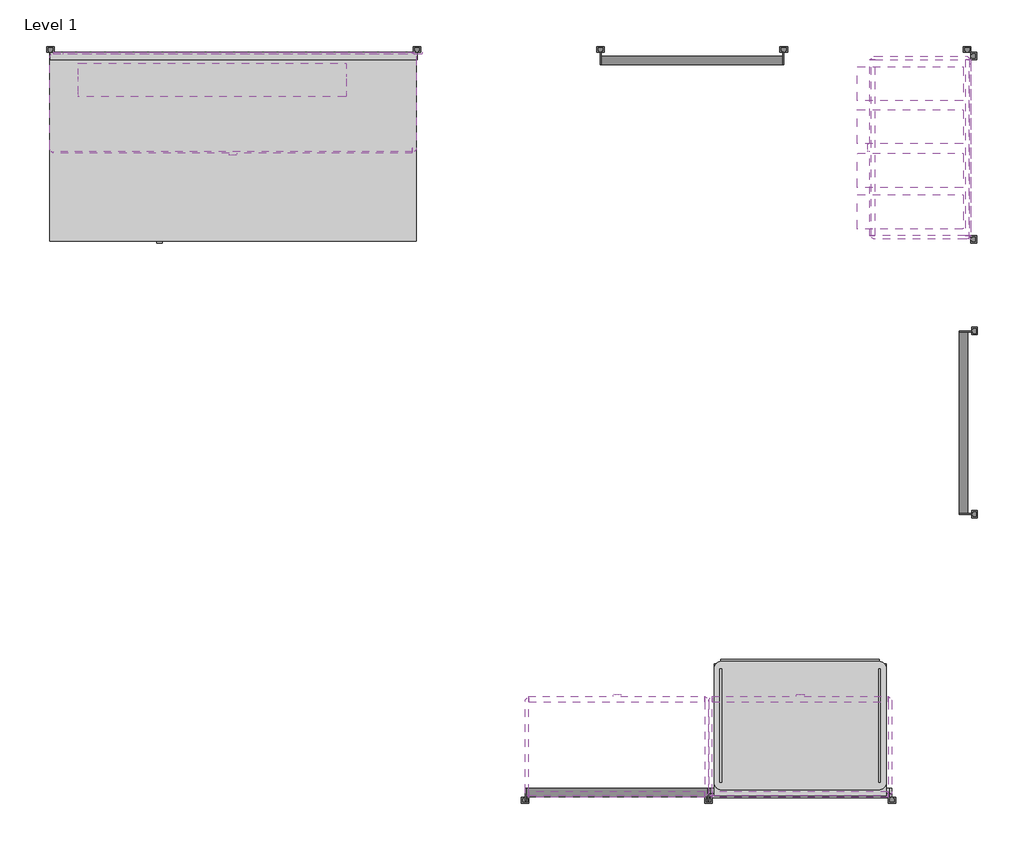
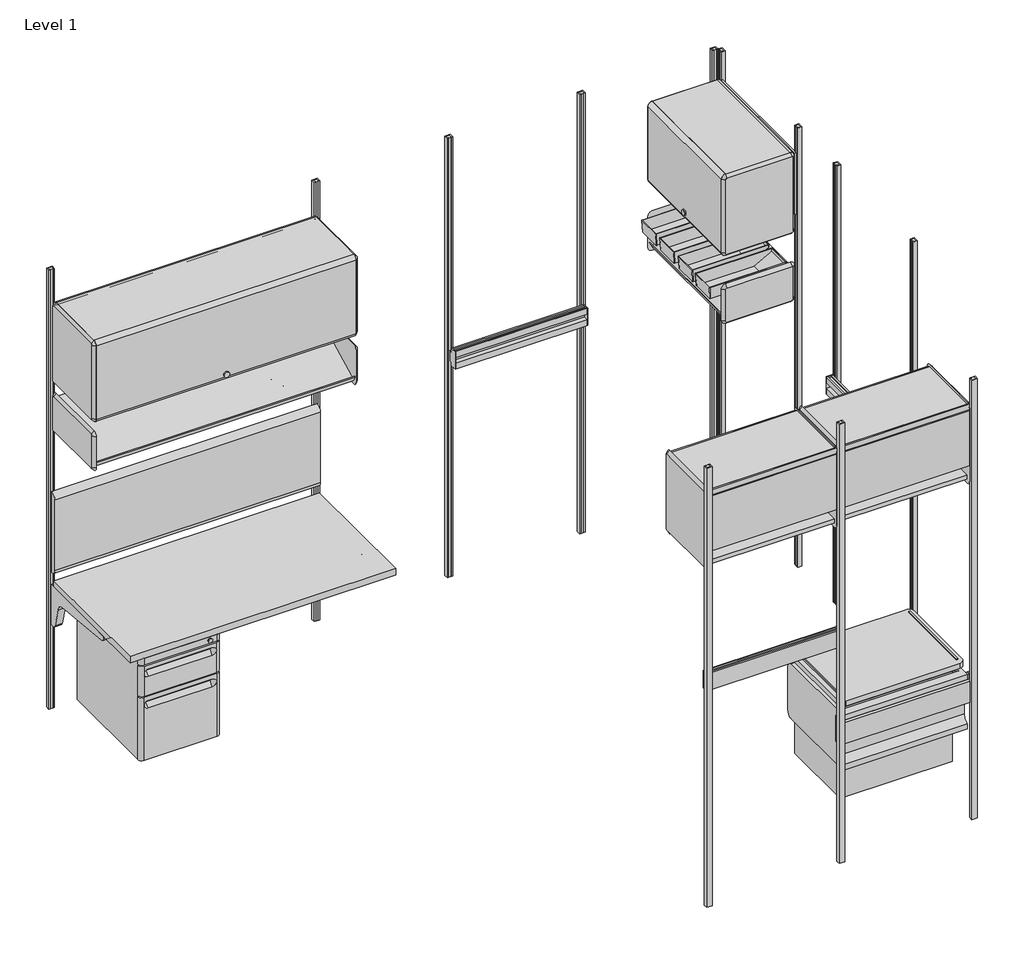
# One storey, incomplete: 41 furniture elements, 1 light fixture.
"""IFC4 building model written with IfcOpenShell, lengths in millimetres."""

from ifc_helpers import new_model, si_unit, origin, place, context, project, spatial, transform, mapped, element, save
from components import furniture_e8b0ce59, furniture_fbea0b57, furniture_bd21e539, furniture_34c58b51, furniture_c2e30911, furniture_1b200335, furniture_a9d36921, furniture_9d596dc5, furniture_793f8ccc, furniture_8e6b3a5e, furniture_18c0875b, furniture_083a197f, furniture_c8dc60de, furniture_b1e4f5cd, furniture_f8b3439c, furniture_78dc57b8, furniture_ea425779, a_3_e52fff41, b_6_w_lock_8f43cd74, c_9_eb0a6738, light_fixture_24898320

model = new_model("IFC4")

# Units and contexts
model_context = context("Model", 3, world=origin())
ifc_project = project(units=[si_unit("LENGTHUNIT", "METRE", prefix="MILLI")], contexts=[model_context])

# Site, building, storey
site = spatial("IfcSite", under=ifc_project)
building = spatial("IfcBuilding", under=site)
storey = spatial("IfcBuildingStorey", under=building, Name="Level 1", Elevation=0.0)

# Furniture
placement = place(None, origin())
furniture_shape = furniture_e8b0ce59(model_context)
element("IfcFurniture", 1, ObjectType="HermanMiller_CoStruc_CO231_Subcontainer : 2 1/4\"H x 13 7/8\"D x 4 1/2\"W", at=placement, inside=storey, context=model_context, shape_type="MappedRepresentation", body=[
    mapped(furniture_shape, transform((2858.4398, -549.9608, 0.0), x_axis=(0.0, 1.0, 0.0), y_axis=(-1.0, 0.0, 0.0), z_axis=(0.0, 0.0, 1.0))),
])
element("IfcFurniture", 2, ObjectType="HermanMiller_CoStruc_CO231_Subcontainer : 2 1/4\"H x 13 7/8\"D x 4 1/2\"W", at=placement, inside=storey, context=model_context, shape_type="MappedRepresentation", body=[
    mapped(furniture_shape, transform((2858.4398, -412.60268, 0.0), x_axis=(0.0, 1.0, 0.0), y_axis=(-1.0, 0.0, 0.0), z_axis=(0.0, 0.0, 1.0))),
])
element("IfcFurniture", 3, ObjectType="HermanMiller_CoStruc_CO231_Subcontainer : 2 1/4\"H x 13 7/8\"D x 4 1/2\"W", at=placement, inside=storey, context=model_context, shape_type="MappedRepresentation", body=[
    mapped(furniture_shape, transform((2858.4398, -266.80922, 0.0), x_axis=(0.0, 1.0, 0.0), y_axis=(-1.0, 0.0, 0.0), z_axis=(0.0, 0.0, 1.0))),
])
element("IfcFurniture", 4, ObjectType="HermanMiller_CoStruc_CO231_Subcontainer : 2 1/4\"H x 13 7/8\"D x 4 1/2\"W", at=placement, inside=storey, context=model_context, shape_type="MappedRepresentation", body=[
    mapped(furniture_shape, transform((2858.4398, -123.82754, 0.0), x_axis=(0.0, 1.0, 0.0), y_axis=(-1.0, 0.0, 0.0), z_axis=(0.0, 0.0, 1.0))),
])
furniture_2_shape = furniture_fbea0b57(model_context)
element("IfcFurniture", 5, ObjectType="HermanMiller_ActionOffice_A3220_B-StyleStorageDisplay : Display 13\"D x 24\"W", at=placement, inside=storey, context=model_context, shape_type="MappedRepresentation", body=[
    mapped(furniture_2_shape, transform((2879.74024, -460.6012245, 0.0), x_axis=(0.0, -1.0, 0.0), y_axis=(1.0, 0.0, 0.0), z_axis=(0.0, 0.0, 1.0))),
])
furniture_3_shape = furniture_bd21e539(model_context)
element("IfcFurniture", 6, ObjectType="HermanMiller_CoStruc_CO201_CLid : 16\"D x 22\"W", at=placement, inside=storey, context=model_context, shape_type="MappedRepresentation", body=[
    mapped(furniture_3_shape, transform((2492.96428, -2258.8855, 0.0), x_axis=(-1.0, 0.0, 0.0), y_axis=(0.0, -1.0, 0.0), z_axis=(0.0, 0.0, 1.0))),
])
furniture_4_shape = furniture_34c58b51(model_context)
element("IfcFurniture", 7, ObjectType="HermanMiller_CoStruc_CO205_CFrame : 10\"H x 17\"D x 22\"W", at=placement, inside=storey, context=model_context, shape_type="MappedRepresentation", body=[
    mapped(furniture_4_shape, transform((2587.9019849, -2411.1058803, 0.0), x_axis=(-1.0, 0.0, 0.0), y_axis=(0.0, -1.0, 0.0), z_axis=(0.0, 0.0, 1.0))),
])
furniture_5_shape = furniture_c2e30911(model_context)
element("IfcFurniture", 8, ObjectType="HermanMiller_CoStruc_C3011_B-StyleShelf : 15-1/2\"H x 13\"D x 24\"W", at=placement, inside=storey, context=model_context, shape_type="MappedRepresentation", body=[
    mapped(furniture_5_shape, transform((2007.3062845, -2342.1975, 0.0), x_axis=(1.0, 0.0, 0.0), y_axis=(0.0, 1.0, 0.0), z_axis=(0.0, 0.0, 1.0))),
])
element("IfcFurniture", 9, ObjectType="HermanMiller_CoStruc_C3011_B-StyleShelf : 15-1/2\"H x 13\"D x 24\"W", at=placement, inside=storey, context=model_context, shape_type="MappedRepresentation", body=[
    mapped(furniture_5_shape, transform((2616.9062845, -2342.1975, 0.0), x_axis=(1.0, 0.0, 0.0), y_axis=(0.0, 1.0, 0.0), z_axis=(0.0, 0.0, 1.0))),
])
element("IfcFurniture", 10, ObjectType="HermanMiller_CoStruc_C3011_B-StyleShelf : 15-1/2\"H x 13\"D x 24\"W", at=placement, inside=storey, context=model_context, shape_type="MappedRepresentation", body=[
    mapped(furniture_5_shape, transform((2905.14024, -212.7172155, 0.0), x_axis=(0.0, 1.0, 0.0), y_axis=(-1.0, 0.0, 0.0), z_axis=(0.0, 0.0, 1.0))),
])
furniture_6_shape = furniture_1b200335(model_context)
element("IfcFurniture", 11, ObjectType="HermanMiller_Quadrant_G5112_B-PullSuspendedPedestal : 20\"H x 20\"D x 15\"W BF", at=placement, inside=storey, context=model_context, shape_type="MappedRepresentation", body=[
    mapped(furniture_6_shape, transform((228.0412, -388.937503, 0.0), x_axis=(1.0, 0.0, 0.0), y_axis=(0.0, 1.0, 0.0), z_axis=(0.0, 0.0, 1.0))),
])
furniture_7_shape = furniture_a9d36921(model_context)
element("IfcFurniture", 12, ObjectType="HermanMiller_ActionOffice_A3313_B-StyleFlipperDoor : Paint 15-1/2\"H x 13\"D x 24\"W", at=placement, inside=storey, context=model_context, shape_type="MappedRepresentation", body=[
    mapped(furniture_7_shape, transform((1883.36428, -2316.7975, 0.0), x_axis=(-1.0, 0.0, 0.0), y_axis=(0.0, -1.0, 0.0), z_axis=(0.0, 0.0, 1.0))),
])
element("IfcFurniture", 13, ObjectType="HermanMiller_ActionOffice_A3313_B-StyleFlipperDoor : Paint 15-1/2\"H x 13\"D x 24\"W", at=placement, inside=storey, context=model_context, shape_type="MappedRepresentation", body=[
    mapped(furniture_7_shape, transform((2492.96428, -2316.7975, 0.0), x_axis=(-1.0, 0.0, 0.0), y_axis=(0.0, -1.0, 0.0), z_axis=(0.0, 0.0, 1.0))),
])
furniture_8_shape = furniture_9d596dc5(model_context)
element("IfcFurniture", 14, ObjectType="HermanMiller_ActionOffice_A3313_B-StyleFlipperDoor : Paint 15-1/2\"H x 13\"D x 24\"W", at=placement, inside=storey, context=model_context, shape_type="MappedRepresentation", body=[
    mapped(furniture_8_shape, transform((2879.74024, -336.65922, 0.0), x_axis=(0.0, -1.0, 0.0), y_axis=(1.0, 0.0, 0.0), z_axis=(0.0, 0.0, 1.0))),
])
furniture_9_shape = furniture_793f8ccc(model_context)
element("IfcFurniture", 15, ObjectType="HermanMiller_ActionOffice_A3410_B-StyleTackboard : 16\"H x 48\"W", at=placement, inside=storey, context=model_context, shape_type="MappedRepresentation", body=[
    mapped(furniture_9_shape, transform((609.6, -31.75, 0.0), x_axis=(1.0, 0.0, 0.0), y_axis=(0.0, 1.0, 0.0), z_axis=(0.0, 0.0, 1.0))),
])
furniture_10_shape = furniture_8e6b3a5e(model_context)
element("IfcFurniture", 16, ObjectType="HermanMiller_ActionOffice_A3220_B-StyleStorageDisplay : Display 13\"D x 48\"W", at=placement, inside=storey, context=model_context, shape_type="MappedRepresentation", body=[
    mapped(furniture_10_shape, transform((730.8673845, -200.025, 0.0), x_axis=(1.0, 0.0, 0.0), y_axis=(0.0, 1.0, 0.0), z_axis=(0.0, 0.0, 1.0))),
])
furniture_11_shape = furniture_18c0875b(model_context)
element("IfcFurniture", 17, ObjectType="HermanMiller_ActionOffice_A3352_B-StyleFlipperDoorUnit : 15 1/2\"H x 13\"D x 48\"W", at=placement, inside=storey, context=model_context, shape_type="MappedRepresentation", body=[
    mapped(furniture_11_shape, transform((606.92538, -200.025, 0.0), x_axis=(1.0, 0.0, 0.0), y_axis=(0.0, 1.0, 0.0), z_axis=(0.0, 0.0, 1.0))),
])
furniture_12_shape = furniture_083a197f(model_context)
element("IfcFurniture", 18, ObjectType="HermanMiller_ActionOffice_A2310_Sq-EdgeRectangularWorkSurface : 24\"D x 48\"W", at=placement, inside=storey, context=model_context, shape_type="MappedRepresentation", body=[
    mapped(furniture_12_shape, transform((606.92538, -333.375, 0.0), x_axis=(1.0, 0.0, 0.0), y_axis=(0.0, 1.0, 0.0), z_axis=(0.0, 0.0, 1.0))),
])
furniture_13_shape = furniture_c8dc60de(model_context)
element("IfcFurniture", 19, ObjectType="HermanMiller_CoStruc_C1610_AdapterRail : 24\"W", at=placement, inside=storey, context=model_context, shape_type="MappedRepresentation", body=[
    mapped(furniture_13_shape, transform((2492.96428, -2483.739, 0.0), x_axis=(-1.0, 0.0, 0.0), y_axis=(0.0, -1.0, 0.0), z_axis=(0.0, 0.0, 1.0))),
])
furniture_14_shape = furniture_b1e4f5cd(model_context)
element("IfcFurniture", 20, ObjectType="HermanMiller_CoStruc_C1172_EquipmentRailSystemsMounted : 24\"W", at=placement, inside=storey, context=model_context, shape_type="MappedRepresentation", body=[
    mapped(furniture_14_shape, transform((1883.36428, -2509.139, 0.0), x_axis=(-1.0, 0.0, 0.0), y_axis=(0.0, -1.0, 0.0), z_axis=(0.0, 0.0, 1.0))),
])
element("IfcFurniture", 21, ObjectType="HermanMiller_CoStruc_C1172_EquipmentRailSystemsMounted : 24\"W", at=placement, inside=storey, context=model_context, shape_type="MappedRepresentation", body=[
    mapped(furniture_14_shape, transform((3063.2273, -1251.05922, 0.0), x_axis=(0.0, -1.0, 0.0), y_axis=(1.0, 0.0, 0.0), z_axis=(0.0, 0.0, 1.0))),
])
element("IfcFurniture", 22, ObjectType="HermanMiller_CoStruc_C1172_EquipmentRailSystemsMounted : 24\"W", at=placement, inside=storey, context=model_context, shape_type="MappedRepresentation", body=[
    mapped(furniture_14_shape, transform((2133.6, -19.05, 0.0), x_axis=(1.0, 0.0, 0.0), y_axis=(0.0, 1.0, 0.0), z_axis=(0.0, 0.0, 1.0))),
])
furniture_15_shape = furniture_f8b3439c(model_context)
element("IfcFurniture", 23, ObjectType="HermanMiller_ActionOffice_A3390_B-StyleFlipperDoorBackPanel : 24\"W", at=placement, inside=storey, context=model_context, shape_type="MappedRepresentation", body=[
    mapped(furniture_15_shape, transform((1883.36428, -2491.4225, 0.0), x_axis=(1.0, 0.0, 0.0), y_axis=(0.0, 1.0, 0.0), z_axis=(0.0, 0.0, 1.0))),
])
element("IfcFurniture", 24, ObjectType="HermanMiller_ActionOffice_A3390_B-StyleFlipperDoorBackPanel : 24\"W", at=placement, inside=storey, context=model_context, shape_type="MappedRepresentation", body=[
    mapped(furniture_15_shape, transform((2492.96428, -2491.4225, 0.0), x_axis=(1.0, 0.0, 0.0), y_axis=(0.0, 1.0, 0.0), z_axis=(0.0, 0.0, 1.0))),
])
element("IfcFurniture", 25, ObjectType="HermanMiller_ActionOffice_A3390_B-StyleFlipperDoorBackPanel : 24\"W", at=placement, inside=storey, context=model_context, shape_type="MappedRepresentation", body=[
    mapped(furniture_15_shape, transform((3054.36524, -349.35922, 0.0), x_axis=(0.0, 1.0, 0.0), y_axis=(-1.0, 0.0, 0.0), z_axis=(0.0, 0.0, 1.0))),
])
furniture_16_shape = furniture_78dc57b8(model_context)
element("IfcFurniture", 26, ObjectType="HermanMiller_ActionOffice_A3390_B-StyleFlipperDoorBackPanel : 48\"W", at=placement, inside=storey, context=model_context, shape_type="MappedRepresentation", body=[
    mapped(furniture_16_shape, transform((639.2037, -19.05, 0.0), x_axis=(1.0, 0.0, 0.0), y_axis=(0.0, 1.0, 0.0), z_axis=(0.0, 0.0, 1.0))),
])
furniture_17_shape = furniture_ea425779(model_context)
element("IfcFurniture", 27, ObjectType="HermanMiller_ActionOffice_AO213_WallStrip : 84\"H", at=placement, inside=storey, context=model_context, shape_type="MappedRepresentation", body=[
    mapped(furniture_17_shape, transform((3048.0, 0.0, 0.0), x_axis=(1.0, 0.0, 0.0), y_axis=(0.0, 1.0, 0.0), z_axis=(0.0, 0.0, 1.0))),
])
element("IfcFurniture", 28, ObjectType="HermanMiller_ActionOffice_AO213_WallStrip : 84\"H", at=placement, inside=storey, context=model_context, shape_type="MappedRepresentation", body=[
    mapped(furniture_17_shape, transform((1578.56428, -2516.8225, 0.0), x_axis=(-1.0, 0.0, 0.0), y_axis=(0.0, -1.0, 0.0), z_axis=(0.0, 0.0, 1.0))),
])
element("IfcFurniture", 29, ObjectType="HermanMiller_ActionOffice_AO213_WallStrip : 84\"H", at=placement, inside=storey, context=model_context, shape_type="MappedRepresentation", body=[
    mapped(furniture_17_shape, transform((2188.16428, -2516.8225, 0.0), x_axis=(-1.0, 0.0, 0.0), y_axis=(0.0, -1.0, 0.0), z_axis=(0.0, 0.0, 1.0))),
])
element("IfcFurniture", 30, ObjectType="HermanMiller_ActionOffice_AO213_WallStrip : 84\"H", at=placement, inside=storey, context=model_context, shape_type="MappedRepresentation", body=[
    mapped(furniture_17_shape, transform((2797.76428, -2516.8225, 0.0), x_axis=(-1.0, 0.0, 0.0), y_axis=(0.0, -1.0, 0.0), z_axis=(0.0, 0.0, 1.0))),
])
element("IfcFurniture", 31, ObjectType="HermanMiller_ActionOffice_AO213_WallStrip : 84\"H", at=placement, inside=storey, context=model_context, shape_type="MappedRepresentation", body=[
    mapped(furniture_17_shape, transform((3082.2773, -1555.85922, 0.0), x_axis=(0.0, -1.0, 0.0), y_axis=(1.0, 0.0, 0.0), z_axis=(0.0, 0.0, 1.0))),
])
element("IfcFurniture", 32, ObjectType="HermanMiller_ActionOffice_AO213_WallStrip : 84\"H", at=placement, inside=storey, context=model_context, shape_type="MappedRepresentation", body=[
    mapped(furniture_17_shape, transform((3082.2773, -946.25922, 0.0), x_axis=(0.0, -1.0, 0.0), y_axis=(1.0, 0.0, 0.0), z_axis=(0.0, 0.0, 1.0))),
])
element("IfcFurniture", 33, ObjectType="HermanMiller_ActionOffice_AO213_WallStrip : 84\"H", at=placement, inside=storey, context=model_context, shape_type="MappedRepresentation", body=[
    mapped(furniture_17_shape, transform((3079.76524, -641.45922, 0.0), x_axis=(0.0, -1.0, 0.0), y_axis=(1.0, 0.0, 0.0), z_axis=(0.0, 0.0, 1.0))),
])
element("IfcFurniture", 34, ObjectType="HermanMiller_ActionOffice_AO213_WallStrip : 84\"H", at=placement, inside=storey, context=model_context, shape_type="MappedRepresentation", body=[
    mapped(furniture_17_shape, transform((3079.76524, -31.85922, 0.0), x_axis=(0.0, -1.0, 0.0), y_axis=(1.0, 0.0, 0.0), z_axis=(0.0, 0.0, 1.0))),
])
element("IfcFurniture", 35, ObjectType="HermanMiller_ActionOffice_AO213_WallStrip : 84\"H", at=placement, inside=storey, context=model_context, shape_type="MappedRepresentation", body=[
    mapped(furniture_17_shape, transform((2438.4, 0.0, 0.0), x_axis=(1.0, 0.0, 0.0), y_axis=(0.0, 1.0, 0.0), z_axis=(0.0, 0.0, 1.0))),
])
element("IfcFurniture", 36, ObjectType="HermanMiller_ActionOffice_AO213_WallStrip : 84\"H", at=placement, inside=storey, context=model_context, shape_type="MappedRepresentation", body=[
    mapped(furniture_17_shape, transform((1828.8, 0.0, 0.0), x_axis=(1.0, 0.0, 0.0), y_axis=(0.0, 1.0, 0.0), z_axis=(0.0, 0.0, 1.0))),
])
element("IfcFurniture", 37, ObjectType="HermanMiller_ActionOffice_AO213_WallStrip : 84\"H", at=placement, inside=storey, context=model_context, shape_type="MappedRepresentation", body=[
    mapped(furniture_17_shape, transform((1219.2, 0.0, 0.0), x_axis=(1.0, 0.0, 0.0), y_axis=(0.0, 1.0, 0.0), z_axis=(0.0, 0.0, 1.0))),
])
element("IfcFurniture", 38, ObjectType="HermanMiller_ActionOffice_AO213_WallStrip : 84\"H", at=placement, inside=storey, context=model_context, shape_type="MappedRepresentation", body=[
    mapped(furniture_17_shape, transform((0.0, 0.0, 0.0), x_axis=(1.0, 0.0, 0.0), y_axis=(0.0, 1.0, 0.0), z_axis=(0.0, 0.0, 1.0))),
])
a_3_shape = a_3_e52fff41(model_context)
element("IfcFurniture", 39, ObjectType="HermanMiller_CoStruc_CO207_Drawer : A - 3", at=placement, inside=storey, context=model_context, shape_type="MappedRepresentation", body=[
    mapped(a_3_shape, transform((2493.0316283, -2233.41692, 0.0), x_axis=(-1.0, 0.0, 0.0), y_axis=(0.0, -1.0, 0.0), z_axis=(0.0, 0.0, 1.0))),
])
b_6_w_lock_shape = b_6_w_lock_8f43cd74(model_context)
element("IfcFurniture", 40, ObjectType="HermanMiller_CoStruc_CO549_LockedDrawerWithLid : B - 6 W/Lock", at=placement, inside=storey, context=model_context, shape_type="MappedRepresentation", body=[
    mapped(b_6_w_lock_shape, transform((2493.0316283, -2233.41692, 0.0), x_axis=(-1.0, 0.0, 0.0), y_axis=(0.0, -1.0, 0.0), z_axis=(0.0, 0.0, 1.0))),
])
c_9_shape = c_9_eb0a6738(model_context)
element("IfcFurniture", 41, ObjectType="HermanMiller_CoStruc_CO207_Drawer : C - 9", at=placement, inside=storey, context=model_context, shape_type="MappedRepresentation", body=[
    mapped(c_9_shape, transform((2493.0316283, -2233.41692, 0.0), x_axis=(-1.0, 0.0, 0.0), y_axis=(0.0, -1.0, 0.0), z_axis=(0.0, 0.0, 1.0))),
])

# Light fixture
light_fixture_shape = light_fixture_24898320(model_context)
element("IfcLightFixture", 42, ObjectType="HermanMiller_SupplementalProducts_G6136_UtilityTaskLight : AO Etho Canvas 42W", at=placement, inside=storey, context=model_context, shape_type="MappedRepresentation", body=[
    mapped(light_fixture_shape, transform((537.718, -111.125, 0.0), x_axis=(1.0, 0.0, 0.0), y_axis=(0.0, 1.0, 0.0), z_axis=(0.0, 0.0, 1.0))),
])

save(model, "model.ifc")
